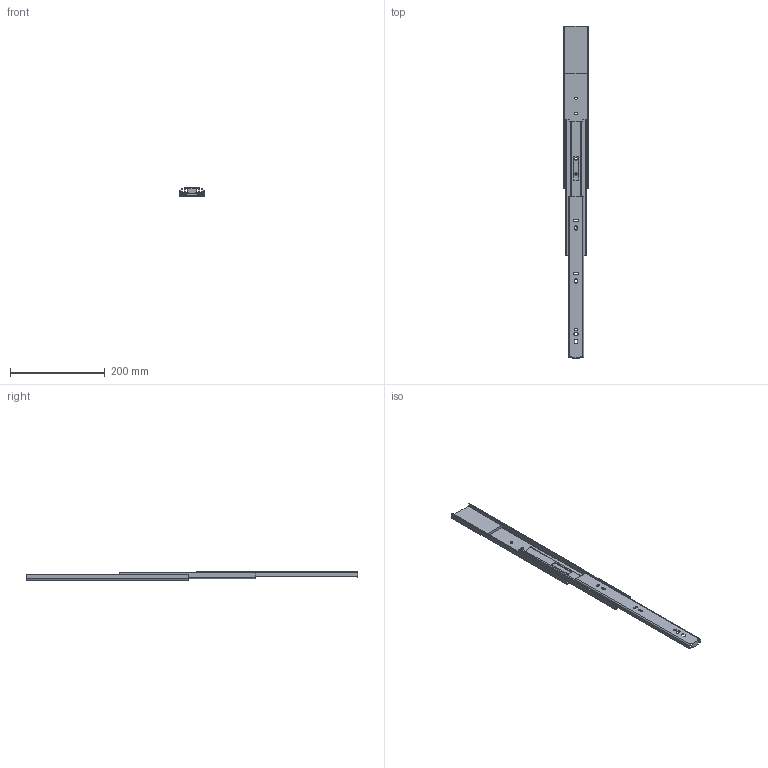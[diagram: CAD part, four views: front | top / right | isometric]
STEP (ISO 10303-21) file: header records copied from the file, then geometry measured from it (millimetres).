
FILE_DESCRIPTION((''),'2;1');
FILE_NAME('78A01_350_OPEN_ASM','2020-09-01T15:15:04',('T170334'),(''),'CREO PARAMETRIC BY PTC INC, 2018260','CREO PARAMETRIC BY PTC INC, 2018260','');
FILE_SCHEMA(('CONFIG_CONTROL_DESIGN'));
Length unit declared in the file: millimetre
Products named in the file (5): OUT_350; MID_350; IN_350; MECHANISM_O; 78A01_350_OPEN_ASM
Assembly tree (4 placements, depth 2):
  78A01_350_OPEN_ASM
    OUT_350
    MID_350
    IN_350
    MECHANISM_O
Bounding box: 53.32 x 702.6 x 18.84 mm (x, y, z)
Volume: 138301.6 mm3; surface area: 136018 mm2
Topology: 4 solids, 4 shells, 154 faces, 434 edges, 288 vertices
Faces by surface type: plane 80, cylinder 74
Entity records: 5219 total; most frequent: CARTESIAN_POINT 929, DIRECTION 892, ORIENTED_EDGE 868, EDGE_CURVE 434, AXIS2_PLACEMENT_3D 303, VERTEX_POINT 288, VECTOR 286, LINE 286
